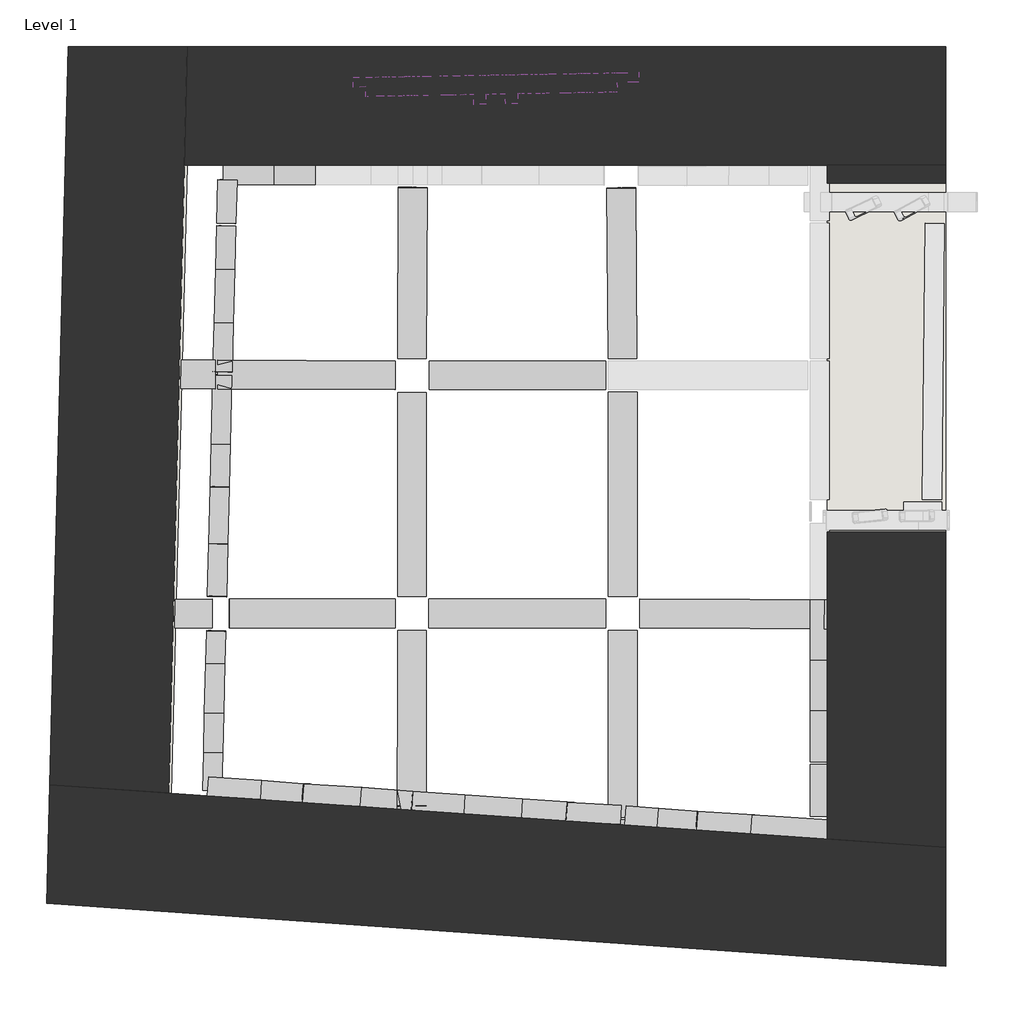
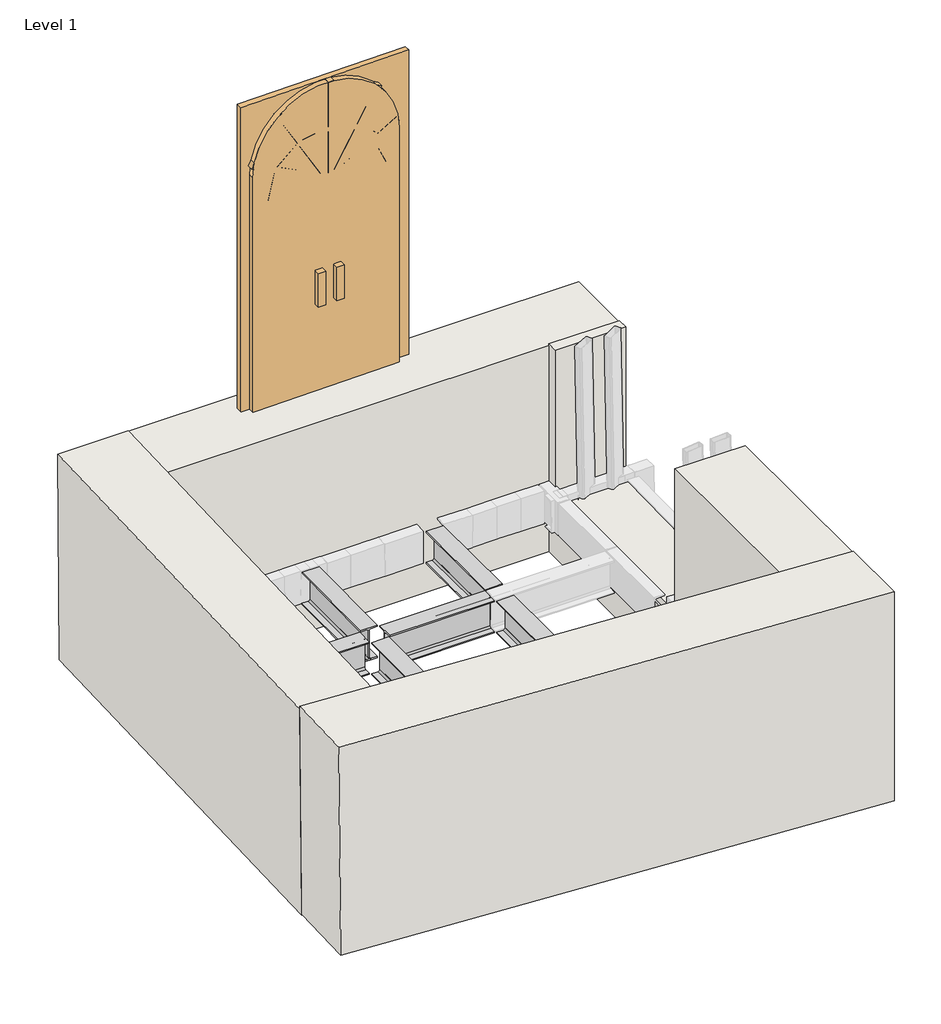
# One storey, part 1 of 2: 46 beams, 4 walls, 1 door.
"""IFC4 building model written with IfcOpenShell, lengths in millimetres."""

from ifc_helpers import new_model, si_unit, frame, origin, place, context, project, spatial, polyline, circle_curve, ellipse_curve, faceted_brep, transform, mapped, element, save
from ifc_brep_helpers import plane_surface, cylinder_surface, revolved_surface, advanced_brep
from components import travi_ipe_ipe300_a3e41ca1, travi_ipe_ipe300_29a46d18, travi_ipe_ipe300_44290511, travi_ipe_ipe300_f944dd80, travi_ipe_ipe300_16f8c149, travi_ipe_ipe300_2685f596, travi_ipe_ipe300_68ba71f3, travi_ipe_ipe300_fd4749f7, travi_ipe_ipe300_970f63a0, travi_ipe_ipe300_51013c44, travi_ipe_ipe300_9d4224a5, travi_ipe_ipe300_f6032196, travi_ipe_ipe300_1f319769, travi_ipe_ipe300_f150801b, travi_ipe_ipe300_4159704f, travi_ipe_ipe300_89c28c39, upn_upn300_7091c5c1, upn_upn300_cf89777c, upn_upn300_5b163803, upn_upn300_bb2414cd, upn_upn300_3d9be292, upn_upn300_8e38a884, upn_upn300_1bd66e09, upn_upn300_6b2b9716, upn_upn300_362bb5d2, upn_upn300_b2afd645, upn_upn300_36335e62, upn_upn300_39c534ce, upn_upn300_7f552821, upn_upn300_2e4f2b7c, upn_upn300_b5fa72a9, upn_upn300_8ccf3d49, upn_upn300_1afaab77, upn_upn300_c73c007a, upn_upn300_8d610b51, upn_upn300_0192a80f, upn_upn300_6ac99c08, upn_upn300_a5b5a8ee, upn_upn300_db688387, upn_upn300_02a14aa8, upn_upn300_c143f453, upn_upn300_93d84ab9, upn_upn300_dfaff964, upn_upn300_c02c083d, upn_upn300_4ded30ec, arched_door_4449_arched_door_4449_ab3fb067

model = new_model("IFC4")

# Units and contexts
model_context = context("Model", 3, world=origin())
ifc_project = project(units=[si_unit("LENGTHUNIT", "METRE", prefix="MILLI")], contexts=[model_context])

# Site, building, storey
site = spatial("IfcSite", under=ifc_project)
building = spatial("IfcBuilding", under=site)
storey = spatial("IfcBuildingStorey", under=building, Name="Level 1", Elevation=-6640.0)

# Beams
placement = place(None, origin())
travi_ipe_ipe300_shape = travi_ipe_ipe300_a3e41ca1(model_context)
element("IfcBeam", 1, ObjectType="Travi IPE : IPE300", at=placement, inside=storey, context=model_context, shape_type="MappedRepresentation", body=[
    mapped(travi_ipe_ipe300_shape, transform((550.1634224, 371.7552289, -6640.0), x_axis=(0.0, -1.0, 0.0), y_axis=(1.0, 0.0, 0.0), z_axis=(0.0, 0.0, 1.0))),
])
travi_ipe_ipe300_2_shape = travi_ipe_ipe300_29a46d18(model_context)
element("IfcBeam", 2, ObjectType="Travi IPE : IPE300", at=placement, inside=storey, context=model_context, shape_type="MappedRepresentation", body=[
    mapped(travi_ipe_ipe300_2_shape, transform((28.9484834, -249.9119871, -6638.668703), x_axis=(-0.9999964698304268, -0.0007323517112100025, 0.0025542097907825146), y_axis=(0.0007323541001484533, -0.9999997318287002, 0.0), z_axis=(0.002554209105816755, 1.8705860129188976e-06, 0.9999967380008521))),
])
travi_ipe_ipe300_3_shape = travi_ipe_ipe300_44290511(model_context)
element("IfcBeam", 3, ObjectType="Travi IPE : IPE300", at=placement, inside=storey, context=model_context, shape_type="MappedRepresentation", body=[
    mapped(travi_ipe_ipe300_3_shape, transform((1100.1634224, -249.5302731, -6640.0), x_axis=(-1.0, 0.0, 0.0), y_axis=(0.0, -1.0, 0.0), z_axis=(0.0, 0.0, 1.0))),
])
travi_ipe_ipe300_4_shape = travi_ipe_ipe300_f944dd80(model_context)
element("IfcBeam", 4, ObjectType="Travi IPE : IPE300", at=placement, inside=storey, context=model_context, shape_type="MappedRepresentation", body=[
    mapped(travi_ipe_ipe300_4_shape, transform((1646.3965504, 1503.4134994, -6638.2899705), x_axis=(0.007380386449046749, -0.9999671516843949, -0.0033504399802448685), y_axis=(0.9999727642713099, 0.007380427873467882, 0.0), z_axis=(2.4727680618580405e-05, -0.0033503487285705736, 0.9999943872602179))),
])
travi_ipe_ipe300_5_shape = travi_ipe_ipe300_16f8c149(model_context)
element("IfcBeam", 5, ObjectType="Travi IPE : IPE300", at=placement, inside=storey, context=model_context, shape_type="MappedRepresentation", body=[
    mapped(travi_ipe_ipe300_5_shape, transform((1100.1634224, 993.0407309, -6640.0), x_axis=(1.0, 0.0, 0.0), y_axis=(0.0, 1.0, 0.0), z_axis=(0.0, 0.0, 1.0))),
])
travi_ipe_ipe300_6_shape = travi_ipe_ipe300_2685f596(model_context)
element("IfcBeam", 6, ObjectType="Travi IPE : IPE300", at=placement, inside=storey, context=model_context, shape_type="MappedRepresentation", body=[
    mapped(travi_ipe_ipe300_6_shape, transform((44.0531849, 995.4095294, -6638.685556), x_axis=(0.9999856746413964, -0.004680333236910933, -0.002597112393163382), y_axis=(0.004680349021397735, 0.9999890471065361, 0.0), z_axis=(0.0025970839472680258, -1.2155392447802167e-05, 0.9999966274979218))),
])
travi_ipe_ipe300_7_shape = travi_ipe_ipe300_68ba71f3(model_context)
element("IfcBeam", 7, ObjectType="Travi IPE : IPE300", at=placement, inside=storey, context=model_context, shape_type="MappedRepresentation", body=[
    mapped(travi_ipe_ipe300_7_shape, transform((552.4590149, 1504.1311669, -6638.5212825), x_axis=(-0.004491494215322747, -0.9999857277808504, -0.0028932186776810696), y_axis=(0.9999899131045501, -0.004491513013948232, 0.0), z_axis=(-1.2994929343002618e-05, -0.0028931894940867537, 0.9999958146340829))),
])
travi_ipe_ipe300_8_shape = travi_ipe_ipe300_fd4749f7(model_context)
element("IfcBeam", 8, ObjectType="Travi IPE : IPE300", at=placement, inside=storey, context=model_context, shape_type="MappedRepresentation", body=[
    mapped(travi_ipe_ipe300_8_shape, transform((1650.1033464, -1495.5846826, -6639.783612), x_axis=(-0.0003578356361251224, -0.999999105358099, 0.0012888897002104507), y_axis=(0.9999999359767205, -0.00035783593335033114, 0.0), z_axis=(4.6121104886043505e-07, 0.001288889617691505, 0.9999991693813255))),
])
travi_ipe_ipe300_9_shape = travi_ipe_ipe300_970f63a0(model_context)
element("IfcBeam", 9, ObjectType="Travi IPE : IPE300", at=placement, inside=storey, context=model_context, shape_type="MappedRepresentation", body=[
    mapped(travi_ipe_ipe300_9_shape, transform((549.2558469, -1419.1009901, -6638.785989), x_axis=(-0.0022344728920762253, -0.9999799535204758, -0.005924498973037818), y_axis=(0.9999975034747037, -0.0022345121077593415, 0.0), z_axis=(-1.3238364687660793e-05, -0.005924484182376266, 0.9999824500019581))),
])
travi_ipe_ipe300_10_shape = travi_ipe_ipe300_51013c44(model_context)
element("IfcBeam", 10, ObjectType="Travi IPE : IPE300", at=placement, inside=storey, context=model_context, shape_type="MappedRepresentation", body=[
    mapped(travi_ipe_ipe300_10_shape, transform((-727.7227671, 999.0631754, -6638.685556), x_axis=(0.9999760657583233, -0.004836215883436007, 0.0049476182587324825), y_axis=(0.004836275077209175, 0.9999883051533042, 0.0), z_axis=(-0.004947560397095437, 2.3928042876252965e-05, 0.9999877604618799))),
])
travi_ipe_ipe300_11_shape = travi_ipe_ipe300_9d4224a5(model_context)
element("IfcBeam", 11, ObjectType="Travi IPE : IPE300", at=placement, inside=storey, context=model_context, shape_type="MappedRepresentation", body=[
    mapped(travi_ipe_ipe300_11_shape, transform((2840.9589873, -255.2904752, -6640.0), x_axis=(-0.9999871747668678, 0.0050646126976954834, 0.0), y_axis=(-0.0050646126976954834, -0.9999871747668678, 0.0), z_axis=(0.0, 0.0, 1.0))),
])
travi_ipe_ipe300_12_shape = travi_ipe_ipe300_f6032196(model_context)
element("IfcBeam", 12, ObjectType="Travi IPE : IPE300", at=placement, inside=storey, context=model_context, shape_type="MappedRepresentation", body=[
    mapped(travi_ipe_ipe300_12_shape, transform((549.8967534, -750.3997991, -6638.895484), x_axis=(-0.000532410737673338, -0.9999974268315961, 0.0022051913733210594), y_axis=(0.999999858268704, -0.0005324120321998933, 0.0), z_axis=(1.1740704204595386e-06, 0.002205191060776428, 0.9999975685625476))),
])
travi_ipe_ipe300_13_shape = travi_ipe_ipe300_1f319769(model_context)
element("IfcBeam", 13, ObjectType="Travi IPE : IPE300", at=placement, inside=storey, context=model_context, shape_type="MappedRepresentation", body=[
    mapped(travi_ipe_ipe300_13_shape, transform((-744.2651684, -250.7526999, -6638.6756245), x_axis=(-0.9999842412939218, -0.0018214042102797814, -0.005310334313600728), y_axis=(0.0018214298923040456, -0.9999983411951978, 0.0), z_axis=(-0.005310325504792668, -9.672401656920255e-06, 0.9999859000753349))),
])
travi_ipe_ipe300_14_shape = travi_ipe_ipe300_f150801b(model_context)
element("IfcBeam", 14, ObjectType="Travi IPE : IPE300", at=placement, inside=storey, context=model_context, shape_type="MappedRepresentation", body=[
    mapped(travi_ipe_ipe300_14_shape, transform((1650.1634224, 371.7552289, -6640.0), x_axis=(0.0, -1.0, 0.0), y_axis=(1.0, 0.0, 0.0), z_axis=(0.0, 0.0, 1.0))),
])
travi_ipe_ipe300_15_shape = travi_ipe_ipe300_4159704f(model_context)
element("IfcBeam", 15, ObjectType="Travi IPE : IPE300", at=placement, inside=storey, context=model_context, shape_type="MappedRepresentation", body=[
    mapped(travi_ipe_ipe300_15_shape, transform((1650.1634224, -788.6139851, -6640.0), x_axis=(0.0, -1.0, 0.0), y_axis=(1.0, 0.0, 0.0), z_axis=(0.0, 0.0, 1.0))),
])
travi_ipe_ipe300_16_shape = travi_ipe_ipe300_89c28c39(model_context)
element("IfcBeam", 16, ObjectType="Travi IPE : IPE300", at=placement, inside=storey, context=model_context, shape_type="MappedRepresentation", body=[
    mapped(travi_ipe_ipe300_16_shape, transform((2152.7503524, -251.9403171, -6640.0), x_axis=(-0.999988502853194, 0.004795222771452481, 0.0), y_axis=(-0.004795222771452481, -0.999988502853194, 0.0), z_axis=(0.0, 0.0, 1.0))),
])
element("IfcBeam", 17, ObjectType="UPN : UPN300", at=placement, inside=storey, context=model_context, shape_type="AdvancedBrep", body=[
    advanced_brep(
    [(-168.6288486, 1988.2216029, -6490.0), (-168.6288486, 2088.2216029, -6490.0), (-168.6288486, 2088.2216029, -6494.6173776), (-168.6288486, 2080.8590189, -6502.5919434), (-168.6288486, 2012.9467709, -6508.0202457), (-168.6288486, 1998.2216029, -6523.9693775), (-168.6288486, 1998.2216029, -6756.0306225), (-168.6288486, 2012.9467709, -6771.9797543), (-168.6288486, 2080.8590189, -6777.4080566), (-168.6288486, 2088.2216029, -6785.3826224), (-168.6288486, 2088.2216029, -6790.0), (-168.6288486, 1988.2216029, -6790.0), (45.8284331, 1988.2216029, -6790.0), (45.4870477, 1988.2216029, -6490.0), (45.8284331, 2088.2216029, -6790.0), (45.8231788, 2088.2216029, -6785.3826224), (45.8141041, 2080.8590189, -6777.4080566), (45.807927, 2012.9467709, -6771.9797543), (45.7897776, 1998.2216029, -6756.0306225), (45.5257032, 1998.2216029, -6523.9693775), (45.5075539, 2012.9467709, -6508.0202457), (45.5013767, 2080.8590189, -6502.5919434), (45.4923021, 2088.2216029, -6494.6173776), (45.4870477, 2088.2216029, -6490.0)],
    [
        (0, 1),
        (1, 2),
        (2, 3, circle_curve(frame((-168.6288486, 2080.2216029, -6494.6173776), z_axis=(-1.0, 0.0, 0.0), x_axis=(0.0, 1.0, 0.0)), 8.0)),
        (3, 4),
        (4, 5, circle_curve(frame((-168.6288486, 2014.2216029, -6523.9693775), z_axis=(1.0, 0.0, 0.0), x_axis=(0.0, 1.0, 0.0)), 16.0)),
        (5, 6),
        (6, 7, circle_curve(frame((-168.6288486, 2014.2216029, -6756.0306225), z_axis=(1.0, 0.0, 0.0), x_axis=(0.0, 1.0, 0.0)), 16.0)),
        (7, 8),
        (8, 9, circle_curve(frame((-168.6288486, 2080.2216029, -6785.3826224), z_axis=(-1.0, 0.0, 0.0), x_axis=(0.0, 1.0, 0.0)), 8.0)),
        (9, 10),
        (10, 11),
        (11, 0),
        (12, 13),
        (13, 0),
        (11, 12),
        (14, 12),
        (10, 14),
        (15, 14),
        (9, 15),
        (16, 15, ellipse_curve(frame((45.8231788, 2080.2216029, -6785.3826224), z_axis=(-0.9999993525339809, 0.0, -0.0011379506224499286), x_axis=(0.0011379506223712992, 0.0, -0.999999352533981)), 8.0000052, 8.0)),
        (8, 16),
        (7, 17),
        (17, 16),
        (18, 17, ellipse_curve(frame((45.7897776, 2014.2216029, -6756.0306225), z_axis=(0.9999993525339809, 0.0, 0.0011379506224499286), x_axis=(-0.0011379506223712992, 0.0, 0.999999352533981)), 16.0000104, 16.0)),
        (6, 18),
        (19, 18),
        (5, 19),
        (20, 19, ellipse_curve(frame((45.5257032, 2014.2216029, -6523.9693775), z_axis=(0.9999993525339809, 0.0, 0.0011379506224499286), x_axis=(-0.0011379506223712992, 0.0, 0.999999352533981)), 16.0000104, 16.0)),
        (4, 20),
        (3, 21),
        (21, 20),
        (22, 21, ellipse_curve(frame((45.4923021, 2080.2216029, -6494.6173776), z_axis=(-0.9999993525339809, 0.0, -0.0011379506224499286), x_axis=(0.0011379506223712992, 0.0, -0.999999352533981)), 8.0000052, 8.0)),
        (2, 22),
        (23, 22),
        (1, 23),
        (13, 23),
    ],
    [
        plane_surface(frame((-168.6288486, 2015.2216029, -6640.0), z_axis=(-1.0, 0.0, 0.0), x_axis=(0.0, 0.0, 1.0))),
        plane_surface(frame((45.6163239, 1988.2216029, -6490.0), z_axis=(0.0, -1.0, 0.0), x_axis=(-1.0, 0.0, 0.0))),
        plane_surface(frame((45.6163239, 1988.2216029, -6790.0), z_axis=(0.0, 0.0, -1.0), x_axis=(-1.0, 0.0, 0.0))),
        plane_surface(frame((45.6163239, 2088.2216029, -6790.0), z_axis=(0.0, 1.0, 0.0), x_axis=(-1.0, 0.0, 0.0))),
        cylinder_surface(frame((45.6163239, 2080.2216029, -6785.3826224), z_axis=(1.0, 0.0, 0.0), x_axis=(0.0, 1.0, 0.0)), 8.0),
        plane_surface(frame((45.6163239, 2038.2216029, -6774.0), z_axis=(0.0, 0.07967700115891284, 0.9968207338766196), x_axis=(-1.0, 0.0, 0.0))),
        revolved_surface(polyline([(-168.6288486, 2030.2216029, -6756.0306225), (45.80798482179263, 2030.2216029, -6756.0306225)]), (45.6163239, 2014.2216029, -6756.0306225), (-1.0, 0.0, 0.0)),
        plane_surface(frame((45.6163239, 1998.2216029, -6756.0306225), z_axis=(0.0, 1.0, 0.0), x_axis=(-1.0, 0.0, 0.0))),
        revolved_surface(polyline([(-168.6288486, 2030.2216029, -6523.9693775), (45.54391042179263, 2030.2216029, -6523.9693775)]), (45.6163239, 2014.2216029, -6523.9693775), (-1.0, 0.0, 0.0)),
        plane_surface(frame((45.6163239, 2038.2216029, -6506.0), z_axis=(0.0, 0.07967700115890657, -0.9968207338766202), x_axis=(-1.0, 0.0, 0.0))),
        cylinder_surface(frame((45.6163239, 2080.2216029, -6494.6173776), z_axis=(1.0, 0.0, 0.0), x_axis=(0.0, 1.0, 0.0)), 8.0),
        plane_surface(frame((45.6163239, 2088.2216029, -6494.6173776), z_axis=(0.0, 1.0, 0.0), x_axis=(-1.0, 0.0, 0.0))),
        plane_surface(frame((45.6163239, 2088.2216029, -6490.0), z_axis=(0.0, 0.0, 1.0), x_axis=(-1.0, 0.0, 0.0))),
        plane_surface(frame((45.4870477, 2015.2216029, -6490.0), z_axis=(0.9999993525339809, 0.0, 0.0011379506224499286), x_axis=(0.0, -1.0, 0.0))),
    ],
    [
        (0, [[1, 2, 3, 4, 5, 6, 7, 8, 9, 10, 11, 12]]),
        (1, [[13, 14, -12, 15]]),
        (2, [[16, -15, -11, 17]]),
        (3, [[18, -17, -10, 19]]),
        (4, [[20, -19, -9, 21]]),
        (5, [[-21, -8, 22, 23]]),
        (6, [[24, -22, -7, 25]]),
        (7, [[26, -25, -6, 27]]),
        (8, [[28, -27, -5, 29]]),
        (9, [[-29, -4, 30, 31]]),
        (10, [[32, -30, -3, 33]]),
        (11, [[34, -33, -2, 35]]),
        (12, [[36, -35, -1, -14]]),
        (13, [[-13, -16, -18, -20, -23, -24, -26, -28, -31, -32, -34, -36]]),
    ],
),
])
upn_upn300_shape = upn_upn300_7091c5c1(model_context)
element("IfcBeam", 18, ObjectType="UPN : UPN300", at=placement, inside=storey, context=model_context, shape_type="MappedRepresentation", body=[
    mapped(upn_upn300_shape, transform((691.9210824, -1261.4461471, -6638.4899435), x_axis=(-0.9976703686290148, 0.06804486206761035, 0.004871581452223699), y_axis=(-0.06804566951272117, -0.997682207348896, 0.0), z_axis=(0.0048602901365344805, -0.0003314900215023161, 0.9999881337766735))),
])
upn_upn300_2_shape = upn_upn300_cf89777c(model_context)
element("IfcBeam", 19, ObjectType="UPN : UPN300", at=placement, inside=storey, context=model_context, shape_type="MappedRepresentation", body=[
    mapped(upn_upn300_2_shape, transform((1245.3549219, -1299.5901341, -6639.167015), x_axis=(-0.9973791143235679, 0.07235260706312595, -5.0619208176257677e-05), y_axis=(-0.07235260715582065, -0.9973791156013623, 0.0), z_axis=(-5.0486541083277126e-05, 3.662431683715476e-06, 0.9999999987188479))),
])
upn_upn300_3_shape = upn_upn300_5b163803(model_context)
element("IfcBeam", 20, ObjectType="UPN : UPN300", at=placement, inside=storey, context=model_context, shape_type="MappedRepresentation", body=[
    mapped(upn_upn300_3_shape, transform((2655.3362804, -1210.2113166, -6640.0), x_axis=(0.0, 1.0, 0.0), y_axis=(-1.0, 0.0, 0.0), z_axis=(0.0, 0.0, 1.0))),
])
upn_upn300_4_shape = upn_upn300_bb2414cd(model_context)
element("IfcBeam", 21, ObjectType="UPN : UPN300", at=placement, inside=storey, context=model_context, shape_type="MappedRepresentation", body=[
    mapped(upn_upn300_4_shape, transform((-458.1756646, 1137.8339324, -6638.7108905), x_axis=(0.02712616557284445, 0.9995881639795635, -0.009363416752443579), y_axis=(-0.9996319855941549, 0.0271273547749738, 0.0), z_axis=(0.00025400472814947, 0.009359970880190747, 0.999956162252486))),
])
upn_upn300_5_shape = upn_upn300_3d9be292(model_context)
element("IfcBeam", 22, ObjectType="UPN : UPN300", at=placement, inside=storey, context=model_context, shape_type="MappedRepresentation", body=[
    mapped(upn_upn300_5_shape, transform((-444.6744196, 1661.4058214, -6640.0), x_axis=(0.025030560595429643, 0.9996866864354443, 0.0), y_axis=(-0.9996866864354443, 0.025030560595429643, 0.0), z_axis=(0.0, 0.0, 1.0))),
])
upn_upn300_6_shape = upn_upn300_8e38a884(model_context)
element("IfcBeam", 23, ObjectType="UPN : UPN300", at=placement, inside=storey, context=model_context, shape_type="MappedRepresentation", body=[
    mapped(upn_upn300_6_shape, transform((2655.3367814, -381.6994621, -6640.0), x_axis=(3.934067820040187e-06, 0.9999999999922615, 0.0), y_axis=(-0.9999999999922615, 3.934067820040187e-06, 0.0), z_axis=(0.0, 0.0, 1.0))),
])
upn_upn300_7_shape = upn_upn300_1bd66e09(model_context)
element("IfcBeam", 24, ObjectType="UPN : UPN300", at=placement, inside=storey, context=model_context, shape_type="MappedRepresentation", body=[
    mapped(upn_upn300_7_shape, transform((-487.8004741, -61.4429116, -6638.421821), x_axis=(0.024988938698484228, 0.9996712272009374, -0.005743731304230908), y_axis=(-0.9996877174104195, 0.024989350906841, 0.0), z_axis=(0.00014353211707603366, 0.005741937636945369, 0.999983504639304))),
])
upn_upn300_8_shape = upn_upn300_6b2b9716(model_context)
element("IfcBeam", 25, ObjectType="UPN : UPN300", at=placement, inside=storey, context=model_context, shape_type="MappedRepresentation", body=[
    mapped(upn_upn300_8_shape, transform((-513.1907786, -1075.0448251, -6640.0), x_axis=(0.025030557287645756, 0.9996866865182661, 0.0), y_axis=(-0.9996866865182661, 0.025030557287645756, 0.0), z_axis=(0.0, 0.0, 1.0))),
])
upn_upn300_9_shape = upn_upn300_362bb5d2(model_context)
element("IfcBeam", 26, ObjectType="UPN : UPN300", at=placement, inside=storey, context=model_context, shape_type="MappedRepresentation", body=[
    mapped(upn_upn300_9_shape, transform((-378.0508611, -1184.6433201, -6640.0), x_axis=(-0.9975640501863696, 0.06975647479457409, 0.0), y_axis=(-0.06975647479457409, -0.9975640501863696, 0.0), z_axis=(0.0, 0.0, 1.0))),
])
upn_upn300_10_shape = upn_upn300_b2afd645(model_context)
element("IfcBeam", 27, ObjectType="UPN : UPN300", at=placement, inside=storey, context=model_context, shape_type="MappedRepresentation", body=[
    mapped(upn_upn300_10_shape, transform((1747.0861989, -1332.5434286, -6640.0), x_axis=(-0.9970340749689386, 0.07696137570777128, 0.0), y_axis=(-0.07696137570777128, -0.9970340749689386, 0.0), z_axis=(0.0, 0.0, 1.0))),
])
upn_upn300_11_shape = upn_upn300_36335e62(model_context)
element("IfcBeam", 28, ObjectType="UPN : UPN300", at=placement, inside=storey, context=model_context, shape_type="MappedRepresentation", body=[
    mapped(upn_upn300_11_shape, transform((-295.8702651, 2015.2216029, -6640.0), x_axis=(-1.0, 0.0, 0.0), y_axis=(0.0, -1.0, 0.0), z_axis=(0.0, 0.0, 1.0))),
])
upn_upn300_12_shape = upn_upn300_39c534ce(model_context)
element("IfcBeam", 29, ObjectType="UPN : UPN300", at=placement, inside=storey, context=model_context, shape_type="MappedRepresentation", body=[
    mapped(upn_upn300_12_shape, transform((-438.8191121, 1895.2588919, -6640.0), x_axis=(0.02503055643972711, 0.9996866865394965, 0.0), y_axis=(-0.9996866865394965, 0.02503055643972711, 0.0), z_axis=(0.0, 0.0, 1.0))),
])
upn_upn300_13_shape = upn_upn300_7f552821(model_context)
element("IfcBeam", 30, ObjectType="UPN : UPN300", at=placement, inside=storey, context=model_context, shape_type="MappedRepresentation", body=[
    mapped(upn_upn300_13_shape, transform((2494.9811149, -1385.5452866, -6640.0), x_axis=(-0.9975640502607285, 0.06975647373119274, 0.0), y_axis=(-0.06975647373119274, -0.9975640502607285, 0.0), z_axis=(0.0, 0.0, 1.0))),
])
upn_upn300_14_shape = upn_upn300_2e4f2b7c(model_context)
element("IfcBeam", 31, ObjectType="UPN : UPN300", at=placement, inside=storey, context=model_context, shape_type="MappedRepresentation", body=[
    mapped(upn_upn300_14_shape, transform((1947.1246519, -1348.1217186, -6639.539286), x_axis=(-0.9969214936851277, 0.0782796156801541, -0.004453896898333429), y_axis=(-0.07828039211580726, -0.9969313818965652, 0.0), z_axis=(-0.004440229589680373, 0.0003486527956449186, 0.9999900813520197))),
])
upn_upn300_15_shape = upn_upn300_b5fa72a9(model_context)
element("IfcBeam", 32, ObjectType="UPN : UPN300", at=placement, inside=storey, context=model_context, shape_type="MappedRepresentation", body=[
    mapped(upn_upn300_15_shape, transform((1509.7104629, -1316.8201626, -6639.5803635), x_axis=(-0.9982782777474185, 0.05857973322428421, 0.0029824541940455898), y_axis=(-0.05857999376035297, -0.9982827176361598, 0.0), z_axis=(0.0029773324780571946, -0.00017471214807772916, 0.9999955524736))),
])
upn_upn300_16_shape = upn_upn300_8ccf3d49(model_context)
element("IfcBeam", 33, ObjectType="UPN : UPN300", at=placement, inside=storey, context=model_context, shape_type="MappedRepresentation", body=[
    mapped(upn_upn300_16_shape, transform((977.9130614, -1280.8819431, -6639.1794025), x_axis=(-0.9977150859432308, 0.06756186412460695, -4.239457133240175e-05), y_axis=(-0.06756186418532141, -0.9977150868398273, 0.0), z_axis=(-4.2297703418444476e-05, 2.8642562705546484e-06, 0.9999999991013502))),
])
upn_upn300_17_shape = upn_upn300_1afaab77(model_context)
element("IfcBeam", 34, ObjectType="UPN : UPN300", at=placement, inside=storey, context=model_context, shape_type="MappedRepresentation", body=[
    mapped(upn_upn300_17_shape, transform((416.5552624, -1241.0742931, -6638.8971925), x_axis=(-0.9970566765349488, 0.07622064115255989, -0.008270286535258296), y_axis=(-0.07622324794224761, -0.9970907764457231, 0.0), z_axis=(-0.008246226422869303, 0.000630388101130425, 0.9999658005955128))),
])
upn_upn300_18_shape = upn_upn300_c73c007a(model_context)
element("IfcBeam", 35, ObjectType="UPN : UPN300", at=placement, inside=storey, context=model_context, shape_type="MappedRepresentation", body=[
    mapped(upn_upn300_18_shape, transform((-123.5203351, -1203.2696121, -6639.7340775), x_axis=(-0.997045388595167, 0.07678116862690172, -0.00226830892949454), y_axis=(-0.0767813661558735, -0.9970479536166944, 0.0), z_axis=(-0.0022616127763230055, 0.0001741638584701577, 0.9999974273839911))),
])
upn_upn300_19_shape = upn_upn300_8d610b51(model_context)
element("IfcBeam", 36, ObjectType="UPN : UPN300", at=placement, inside=storey, context=model_context, shape_type="MappedRepresentation", body=[
    mapped(upn_upn300_19_shape, transform((2192.4364054, -1365.2755871, -6639.539286), x_axis=(-0.9979724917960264, 0.06356453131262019, 0.003233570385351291), y_axis=(-0.0635648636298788, -0.9979777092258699, 0.0), z_axis=(0.003227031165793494, -0.00020554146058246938, 0.9999947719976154))),
])
upn_upn300_20_shape = upn_upn300_0192a80f(model_context)
element("IfcBeam", 37, ObjectType="UPN : UPN300", at=placement, inside=storey, context=model_context, shape_type="MappedRepresentation", body=[
    mapped(upn_upn300_20_shape, transform((138.4845474, -1221.5907781, -6639.7340775), x_axis=(-0.9979424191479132, 0.06409043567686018, 0.0018286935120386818), y_axis=(-0.06409054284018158, -0.9979440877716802, 0.0), z_axis=(0.0018249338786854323, -0.00011720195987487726, 0.9999983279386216))),
])
upn_upn300_21_shape = upn_upn300_6ac99c08(model_context)
element("IfcBeam", 38, ObjectType="UPN : UPN300", at=placement, inside=storey, context=model_context, shape_type="MappedRepresentation", body=[
    mapped(upn_upn300_21_shape, transform((-450.9101646, 1414.1884814, -6640.0253345), x_axis=(0.025373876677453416, 0.9996780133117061, 0.00018995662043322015), y_axis=(-0.9996780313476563, 0.025373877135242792, 0.0), z_axis=(-4.81993594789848e-06, -0.00018989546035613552, 0.999999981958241))),
])
upn_upn300_22_shape = upn_upn300_a5b5a8ee(model_context)
element("IfcBeam", 39, ObjectType="UPN : UPN300", at=placement, inside=storey, context=model_context, shape_type="MappedRepresentation", body=[
    mapped(upn_upn300_22_shape, transform((-466.5366021, 823.7158209, -6639.089695), x_axis=(0.02617204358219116, 0.9996070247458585, 0.010040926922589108), y_axis=(-0.999657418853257, 0.026173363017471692, 0.0), z_axis=(-0.0002628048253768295, -0.010037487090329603, 0.9999495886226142))),
])
upn_upn300_23_shape = upn_upn300_db688387(model_context)
element("IfcBeam", 40, ObjectType="UPN : UPN300", at=placement, inside=storey, context=model_context, shape_type="MappedRepresentation", body=[
    mapped(upn_upn300_23_shape, transform((-479.2356006, 275.3971104, -6639.661106), x_axis=(0.025967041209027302, 0.999662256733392, -0.0010417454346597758), y_axis=(-0.9996627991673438, 0.025967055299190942, 0.0), z_axis=(2.70510613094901e-05, 0.0010413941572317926, 0.9999994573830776))),
])
upn_upn300_24_shape = upn_upn300_02a14aa8(model_context)
element("IfcBeam", 41, ObjectType="UPN : UPN300", at=placement, inside=storey, context=model_context, shape_type="MappedRepresentation", body=[
    mapped(upn_upn300_24_shape, transform((-473.2038081, 538.0057174, -6640.3118015), x_axis=(0.019082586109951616, 0.9998085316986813, -0.004330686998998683), y_axis=(-0.9998179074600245, 0.01908276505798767, 0.0), z_axis=(8.264148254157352e-05, 0.004329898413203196, 0.9999906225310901))),
])
upn_upn300_25_shape = upn_upn300_c143f453(model_context)
element("IfcBeam", 42, ObjectType="UPN : UPN300", at=placement, inside=storey, context=model_context, shape_type="MappedRepresentation", body=[
    mapped(upn_upn300_25_shape, transform((-495.7756731, -379.8908836, -6638.6683775), x_axis=(0.02510292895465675, 0.99963210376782, 0.010271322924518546), y_axis=(-0.9996848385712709, 0.02510425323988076, 0.0), z_axis=(-0.0002578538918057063, -0.01026808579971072, 0.9999472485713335))),
])
upn_upn300_26_shape = upn_upn300_93d84ab9(model_context)
element("IfcBeam", 43, ObjectType="UPN : UPN300", at=placement, inside=storey, context=model_context, shape_type="MappedRepresentation", body=[
    mapped(upn_upn300_26_shape, transform((-502.2843521, -639.4569166, -6640.0), x_axis=(0.02503056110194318, 0.9996866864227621, 0.0), y_axis=(-0.9996866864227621, 0.02503056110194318, 0.0), z_axis=(0.0, 0.0, 1.0))),
])
upn_upn300_27_shape = upn_upn300_dfaff964(model_context)
element("IfcBeam", 44, ObjectType="UPN : UPN300", at=placement, inside=storey, context=model_context, shape_type="MappedRepresentation", body=[
    mapped(upn_upn300_27_shape, transform((-508.1130851, -872.2486131, -6640.0), x_axis=(0.02503056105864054, 0.9996866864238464, 0.0), y_axis=(-0.9996866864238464, 0.02503056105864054, 0.0), z_axis=(0.0, 0.0, 1.0))),
])
upn_upn300_28_shape = upn_upn300_c02c083d(model_context)
element("IfcBeam", 45, ObjectType="UPN : UPN300", at=placement, inside=storey, context=model_context, shape_type="MappedRepresentation", body=[
    mapped(upn_upn300_28_shape, transform((2655.3362804, -891.6579461, -6640.0), x_axis=(0.0, 1.0, 0.0), y_axis=(-1.0, 0.0, 0.0), z_axis=(0.0, 0.0, 1.0))),
])
upn_upn300_29_shape = upn_upn300_4ded30ec(model_context)
element("IfcBeam", 46, ObjectType="UPN : UPN300", at=placement, inside=storey, context=model_context, shape_type="MappedRepresentation", body=[
    mapped(upn_upn300_29_shape, transform((2655.3362804, -634.3501171, -6640.0), x_axis=(0.0, 1.0, 0.0), y_axis=(-1.0, 0.0, 0.0), z_axis=(0.0, 0.0, 1.0))),
])

# Door
arched_door_4449_arched_door_4449_shape = arched_door_4449_arched_door_4449_ab3fb067(model_context)
element("IfcDoor", 47, ObjectType="arched_door_4449 : arched_door_4449", at=placement, inside=storey, context=model_context, shape_type="MappedRepresentation", body=[
    mapped(arched_door_4449_arched_door_4449_shape, transform((713.1946481, 2557.2847173, -6400.0), x_axis=(0.9998476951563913, 0.017452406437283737, 0.0), y_axis=(-0.017452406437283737, 0.9998476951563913, 0.0), z_axis=(0.0, 0.0, 1.0))),
])

# Walls
element("IfcWall", 48, ObjectType="foundation wall 62 cm", at=placement, inside=storey, context=model_context, shape_type="Brep", body=[
    faceted_brep([(3336.5806922, -1470.6492255, -7143.720135), (-1324.345363, -1144.7255208, -7143.720135), (-1340.9985952, -1143.5610134, -5232.7065662), (-1341.2538529, -1143.543164, -5203.4149), (3336.5806922, -1470.6492255, -5203.4149), (3336.5806922, -1470.6492255, -5219.412763), (3336.5806922, -2092.1632024, -7143.720135), (3336.5806922, -2092.1632024, -5203.4149), (-1356.7883706, -1763.9708616, -5203.4149), (-1339.8798807, -1765.1532184, -7143.720135)], [[[0, 1, 2, 3, 4, 5]], [[6, 7, 8, 9]], [[1, 0, 6, 9]], [[4, 3, 8, 7]], [[3, 2, 1, 9, 8]], [[0, 5, 4, 7, 6]]]),
])
element("IfcWall", 49, ObjectType="foundation wall 62 cm", at=placement, inside=storey, context=model_context, shape_type="Brep", body=[
    faceted_brep([(-721.8646781, -1186.855075, -5232.7065662), (-705.1523602, -1188.0237141, -7150.5004147), (-623.0725679, 2090.1325583, -7150.5004147), (-607.5487598, 2710.1325287, -7150.5004147), (-624.269316, 2710.1325287, -5235.1147514), (-624.2903385, 2710.1325287, -5232.7065662), (-1324.2862773, -1144.7296525, -7150.5004147), (-1324.345363, -1144.7255208, -7143.720135), (-1340.9985952, -1143.5610134, -5232.7065662), (-1244.5082698, 2710.1325287, -5232.7065662), (-1227.766691, 2710.1325287, -7150.5004147)], [[[0, 1, 2, 3, 4, 5]], [[6, 7, 8, 9, 10]], [[1, 6, 10, 3, 2]], [[8, 0, 5, 9]], [[10, 9, 5, 4, 3]], [[6, 1, 0, 8, 7]]]),
])
element("IfcWall", 50, ObjectType="foundation wall 62 cm", at=placement, inside=storey, context=model_context, shape_type="Brep", body=[
    faceted_brep([(-623.0713842, 2090.1325287, -7150.6360914), (3336.5806922, 2090.1325287, -7150.6360914), (3336.5806922, 2090.1325287, -7147.5322321), (3336.5806922, 2090.1325287, -5235.1147514), (-639.7931249, 2090.1325287, -5235.1147514), (3336.5806922, 2710.1325287, -7150.6360914), (-607.5475754, 2710.1325287, -7150.6360914), (-624.269316, 2710.1325287, -5235.1147514), (3336.5806922, 2710.1325287, -5235.1147514)], [[[0, 1, 2, 3, 4]], [[5, 6, 7, 8]], [[1, 0, 6, 5]], [[4, 3, 8, 7]], [[0, 4, 7, 6]], [[3, 2, 1, 5, 8]]]),
])
element("IfcWall", 51, ObjectType="foundation wall 62 cm", at=placement, inside=storey, context=model_context, shape_type="Brep", body=[
    faceted_brep([(3336.5806922, -1470.6492255, -7147.5322321), (3336.5806922, 2090.1325287, -7147.5322321), (3336.5806922, 2090.1325287, -5235.1147514), (3336.5806922, 2090.1325287, -5219.412763), (3336.5806922, 1997.0348605, -5219.412763), (3336.5806922, 1997.0348605, -6547.8344069), (3336.5806922, 174.3689928, -6547.8344069), (3336.5806922, 174.3689928, -5219.412763), (3336.5806922, -1470.6492255, -5219.412763), (3336.5806922, -1470.6492255, -7143.720135), (2716.5806922, 2090.1325287, -7147.5322321), (2716.5806922, -1427.2946014, -7147.5322321), (2716.5806922, -1427.2946014, -5219.412763), (2716.5806922, 174.3689928, -5219.412763), (2716.5806922, 174.3689928, -6547.8344069), (2716.5806922, 1997.0348605, -6547.8344069), (2716.5806922, 1997.0348605, -5219.412763), (2716.5806922, 2090.1325287, -5219.412763)], [[[0, 1, 2, 3, 4, 5, 6, 7, 8, 9]], [[10, 11, 12, 13, 14, 15, 16, 17]], [[1, 0, 11, 10]], [[12, 8, 7, 13]], [[3, 17, 16, 4]], [[0, 9, 8, 12, 11]], [[3, 2, 1, 10, 17]], [[5, 15, 14, 6]], [[6, 14, 13, 7]], [[15, 5, 4, 16]]]),
])

save(model, "model.ifc")
